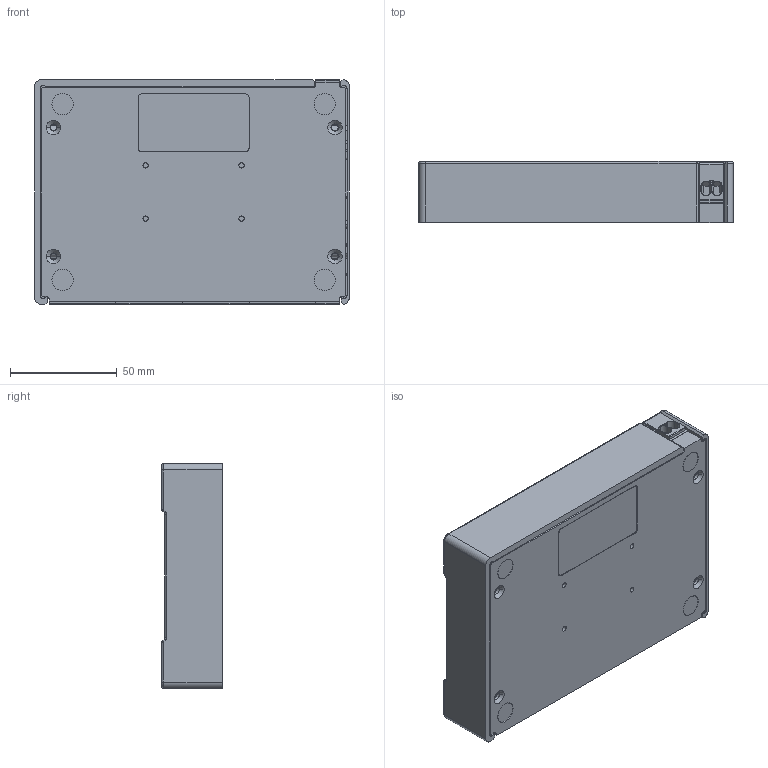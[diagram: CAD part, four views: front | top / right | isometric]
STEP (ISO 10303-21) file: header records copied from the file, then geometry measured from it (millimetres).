
FILE_DESCRIPTION (( 'STEP AP214' ), '1' );
FILE_NAME ('AyDAQ.STEP', '2025-09-11T12:37:01', ( '' ), ( '' ), 'SwSTEP 2.0', 'SolidWorks 2023', '' );
FILE_SCHEMA (( 'AUTOMOTIVE_DESIGN' ));
Length unit declared in the file: millimetre
Products named in the file (1): AyDAQ
Bounding box: 147.5 x 28.5 x 105.5 mm (x, y, z)
Surface area: 119926.3 mm2 (no closed solid volume)
Topology: 0 solids, 22 shells, 967 faces, 8683 edges, 7644 vertices
Faces by surface type: cylinder 443, plane 378, torus 122, cone 18, sphere 4, bspline 2
Entity records: 108295 total; most frequent: CARTESIAN_POINT 43507, ORIENTED_EDGE 10554, EDGE_CURVE 8675, VERTEX_POINT 7644, DIRECTION 7499, B_SPLINE_CURVE_WITH_KNOTS 4442, AXIS2_PLACEMENT_3D 2588, VECTOR 2323
